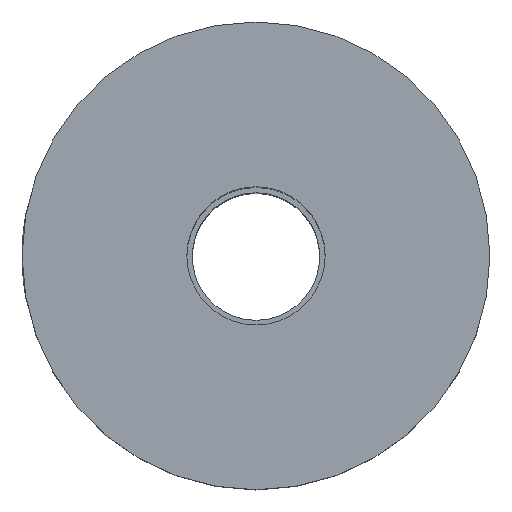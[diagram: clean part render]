
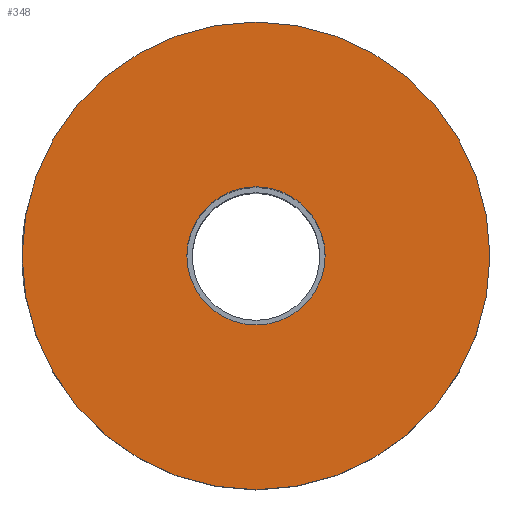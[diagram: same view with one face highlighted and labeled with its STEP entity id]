
A CAD part, top view. The second image highlights one B-rep face of the part: STEP entity #348.
In plain terms, the highlighted planar face has unit normal (0, 0, 1).
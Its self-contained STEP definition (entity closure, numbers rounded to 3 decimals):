
#31 = AXIS2_PLACEMENT_3D ( 'NONE', #245, #606, #300 ) ;
#45 = DIRECTION ( 'NONE',  ( 0., 0., 1. ) ) ;
#53 = CARTESIAN_POINT ( 'NONE',  ( 11., 0., 0. ) ) ;
#55 = CIRCLE ( 'NONE', #505, 11. ) ;
#56 = EDGE_CURVE ( 'NONE', #215, #444, #161, .T. ) ;
#67 = VERTEX_POINT ( 'NONE', #249 ) ;
#76 = DIRECTION ( 'NONE',  ( 1., 0., 0. ) ) ;
#79 = DIRECTION ( 'NONE',  ( 0., 0., 1. ) ) ;
#84 = CARTESIAN_POINT ( 'NONE',  ( 0., 0., 0. ) ) ;
#91 = ORIENTED_EDGE ( 'NONE', *, *, #324, .F. ) ;
#103 = EDGE_CURVE ( 'NONE', #67, #206, #193, .T. ) ;
#161 = CIRCLE ( 'NONE', #31, 11. ) ;
#179 = ORIENTED_EDGE ( 'NONE', *, *, #408, .T. ) ;
#193 = CIRCLE ( 'NONE', #257, 3.25 ) ;
#196 = FACE_OUTER_BOUND ( 'NONE', #419, .T. ) ;
#206 = VERTEX_POINT ( 'NONE', #543 ) ;
#215 = VERTEX_POINT ( 'NONE', #53 ) ;
#245 = CARTESIAN_POINT ( 'NONE',  ( 0., 0., 0. ) ) ;
#249 = CARTESIAN_POINT ( 'NONE',  ( -3.25, 0., 0. ) ) ;
#257 = AXIS2_PLACEMENT_3D ( 'NONE', #428, #45, #345 ) ;
#276 = EDGE_LOOP ( 'NONE', ( #91, #447 ) ) ;
#300 = DIRECTION ( 'NONE',  ( 1., 0., 0. ) ) ;
#313 = DIRECTION ( 'NONE',  ( -1., 0., 0. ) ) ;
#324 = EDGE_CURVE ( 'NONE', #206, #67, #518, .T. ) ;
#340 = DIRECTION ( 'NONE',  ( 0., 0., -1. ) ) ;
#345 = DIRECTION ( 'NONE',  ( 1., 0., 0. ) ) ;
#348 = ADVANCED_FACE ( 'NONE', ( #404, #196 ), #389, .F. ) ;
#355 = CARTESIAN_POINT ( 'NONE',  ( 0., 3.25, 0. ) ) ;
#372 = AXIS2_PLACEMENT_3D ( 'NONE', #355, #340, #313 ) ;
#377 = AXIS2_PLACEMENT_3D ( 'NONE', #504, #495, #461 ) ;
#389 = PLANE ( 'NONE',  #372 ) ;
#404 = FACE_BOUND ( 'NONE', #276, .T. ) ;
#408 = EDGE_CURVE ( 'NONE', #444, #215, #55, .T. ) ;
#419 = EDGE_LOOP ( 'NONE', ( #528, #179 ) ) ;
#428 = CARTESIAN_POINT ( 'NONE',  ( 0., 0., 0. ) ) ;
#444 = VERTEX_POINT ( 'NONE', #486 ) ;
#447 = ORIENTED_EDGE ( 'NONE', *, *, #103, .F. ) ;
#461 = DIRECTION ( 'NONE',  ( 1., 0., 0. ) ) ;
#486 = CARTESIAN_POINT ( 'NONE',  ( -11., 0., 0. ) ) ;
#495 = DIRECTION ( 'NONE',  ( 0., 0., 1. ) ) ;
#504 = CARTESIAN_POINT ( 'NONE',  ( 0., 0., 0. ) ) ;
#505 = AXIS2_PLACEMENT_3D ( 'NONE', #84, #79, #76 ) ;
#518 = CIRCLE ( 'NONE', #377, 3.25 ) ;
#528 = ORIENTED_EDGE ( 'NONE', *, *, #56, .T. ) ;
#543 = CARTESIAN_POINT ( 'NONE',  ( 3.25, 0., 0. ) ) ;
#606 = DIRECTION ( 'NONE',  ( 0., 0., 1. ) ) ;
